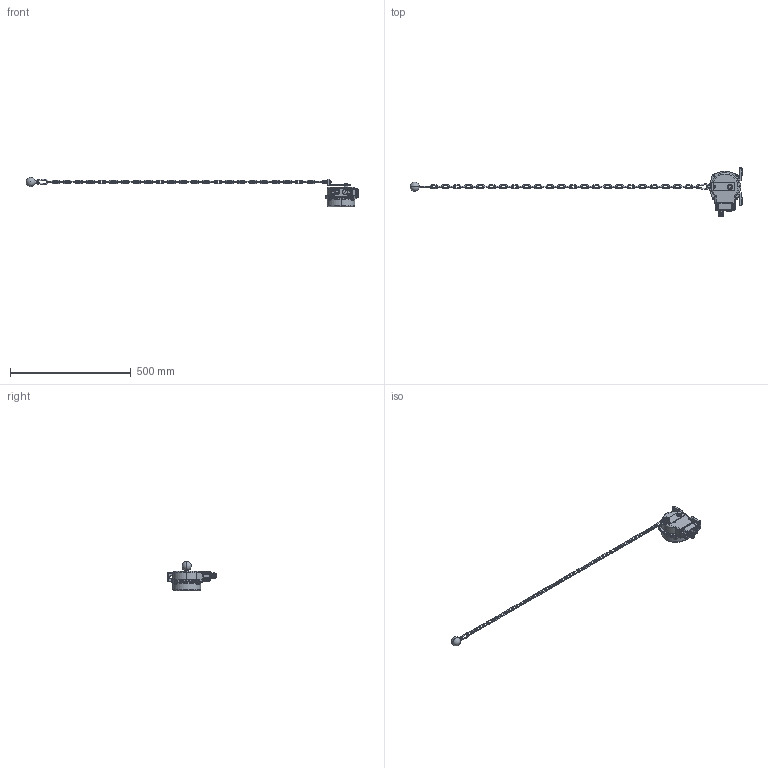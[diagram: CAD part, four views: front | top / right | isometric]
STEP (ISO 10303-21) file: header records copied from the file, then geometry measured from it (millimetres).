
FILE_DESCRIPTION (( 'STEP AP214' ), '1' );
FILE_NAME ('BHS-N àëþìèíèåâàÿ êðûøêà.STEP', '2021-03-22T19:04:45', ( '' ), ( '' ), 'SwSTEP 2.0', 'SolidWorks 2020', '' );
FILE_SCHEMA (( 'AUTOMOTIVE_DESIGN' ));
Length unit declared in the file: millimetre
Products named in the file (17): êàðàáèí; Ðó÷êà; 幄鼭歑; flat washer regular_am_B18.22M - Plain washer, 2.5 mm, regular; 幄鼭歑 欈爃; Áîêîâàÿ êðûøêà; 峙宪 惹嗡; Øòóðöåð ðó÷êè; hex screw_am_B18.6.7M - M5 x 0.8 x 13 Indented HHMS --13N; pan cross head_am_B18.6.7M - M2.5 x 0.45 x 3 Type I Cross Recessed PHMS --3N; ﾘ瑩韭; Êðûøêà êîðïóñà; BHS-N àëþìèíèåâàÿ êðûøêà; 扻錝僝鍧; flat washer narrow_am_B18.22M - Plain washer, 5 mm, narrow; ч蜱齁罻; 扻豵鵨 欈爃
Assembly tree (29 placements, depth 2):
  BHS-N àëþìèíèåâàÿ êðûøêà
    扻豵鵨 欈爃
    Áîêîâàÿ êðûøêà
    Êðûøêà êîðïóñà
    Ðó÷êà
    Øòóðöåð ðó÷êè
    扻錝僝鍧
    幄鼭歑
    hex screw_am_B18.6.7M - M5 x 0.8 x 13 Indented HHMS --13N  x4
    flat washer narrow_am_B18.22M - Plain washer, 5 mm, narrow  x4
    flat washer regular_am_B18.22M - Plain washer, 2.5 mm, regular  x4
    pan cross head_am_B18.6.7M - M2.5 x 0.45 x 3 Type I Cross Recessed PHMS --3N  x4
    ч蜱齁罻
    幄鼭歑 欈爃
    ﾘ瑩韭
    êàðàáèí  x2
    峙宪 惹嗡
Bounding box: 1375 x 199.6 x 121 mm (x, y, z)
Volume: 1148669.6 mm3; surface area: 181154.9 mm2
Topology: 76 solids, 76 shells, 1631 faces, 4230 edges, 2661 vertices
Faces by surface type: cylinder 777, torus 497, plane 260, cone 55, bspline 26, sphere 16
Entity records: 48320 total; most frequent: CARTESIAN_POINT 9287, DIRECTION 9180, ORIENTED_EDGE 7586, AXIS2_PLACEMENT_3D 4075, EDGE_CURVE 3793, CIRCLE 2633, VERTEX_POINT 2412, EDGE_LOOP 1497
